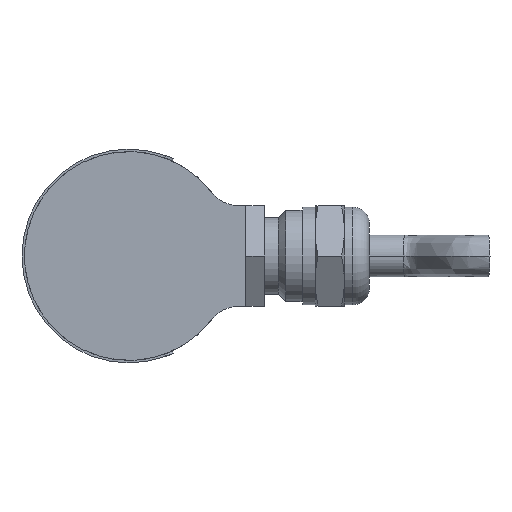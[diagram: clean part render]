
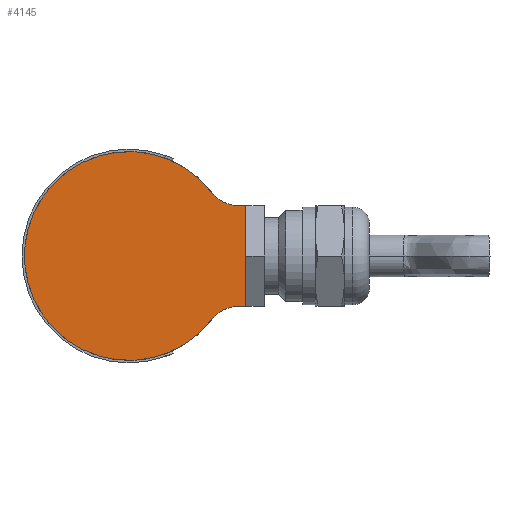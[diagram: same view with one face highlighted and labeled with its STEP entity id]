
A CAD part, left-side view. The second image highlights one B-rep face of the part: STEP entity #4145.
In plain terms, the highlighted planar face has unit normal (-1, 0, 0).
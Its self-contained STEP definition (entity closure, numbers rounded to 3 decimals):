
#18 = LINE ( 'NONE', #4413, #3130 ) ;
#389 = DIRECTION ( 'NONE',  ( 0., 1., 0. ) ) ;
#402 = EDGE_CURVE ( 'NONE', #4246, #4895, #2859, .T. ) ;
#666 = LINE ( 'NONE', #1099, #2024 ) ;
#705 = DIRECTION ( 'NONE',  ( 1., 0., 0. ) ) ;
#719 = CARTESIAN_POINT ( 'NONE',  ( -36.5, 12.501, -6.05 ) ) ;
#754 = CARTESIAN_POINT ( 'NONE',  ( -36.5, -13.086, -10.05 ) ) ;
#770 = EDGE_CURVE ( 'NONE', #2535, #3017, #18, .T. ) ;
#928 = VECTOR ( 'NONE', #2803, 1000. ) ;
#1099 = CARTESIAN_POINT ( 'NONE',  ( -36.5, -14., 6.05 ) ) ;
#1141 = DIRECTION ( 'NONE',  ( 0., 0., 1. ) ) ;
#1144 = FACE_OUTER_BOUND ( 'NONE', #2231, .T. ) ;
#1170 = EDGE_CURVE ( 'NONE', #4895, #3380, #3536, .T. ) ;
#1263 = CARTESIAN_POINT ( 'NONE',  ( -36.5, -9.914, -7.614 ) ) ;
#1291 = ORIENTED_EDGE ( 'NONE', *, *, #402, .T. ) ;
#1572 = PLANE ( 'NONE',  #3845 ) ;
#1693 = ORIENTED_EDGE ( 'NONE', *, *, #1756, .T. ) ;
#1756 = EDGE_CURVE ( 'NONE', #2535, #5092, #4201, .T. ) ;
#1852 = CARTESIAN_POINT ( 'NONE',  ( -36.5, -13.086, 10.05 ) ) ;
#2014 = EDGE_CURVE ( 'NONE', #3380, #3017, #666, .T. ) ;
#2024 = VECTOR ( 'NONE', #1141, 1000. ) ;
#2075 = CARTESIAN_POINT ( 'NONE',  ( -36.5, -14., -6.05 ) ) ;
#2122 = CARTESIAN_POINT ( 'NONE',  ( -36.5, -13.086, 6.05 ) ) ;
#2142 = ORIENTED_EDGE ( 'NONE', *, *, #2014, .T. ) ;
#2146 = CARTESIAN_POINT ( 'NONE',  ( -36.5, -9.914, 7.614 ) ) ;
#2231 = EDGE_LOOP ( 'NONE', ( #5091, #1291, #4709, #2142, #2696, #1693 ) ) ;
#2372 = DIRECTION ( 'NONE',  ( 0., 1., 0. ) ) ;
#2486 = CARTESIAN_POINT ( 'NONE',  ( -36.5, -14., 6.05 ) ) ;
#2535 = VERTEX_POINT ( 'NONE', #2122 ) ;
#2673 = DIRECTION ( 'NONE',  ( 0., -1., 0. ) ) ;
#2696 = ORIENTED_EDGE ( 'NONE', *, *, #770, .F. ) ;
#2707 = AXIS2_PLACEMENT_3D ( 'NONE', #5078, #4436, #2673 ) ;
#2763 = EDGE_CURVE ( 'NONE', #4246, #5092, #4997, .T. ) ;
#2803 = DIRECTION ( 'NONE',  ( 0., -1., 0. ) ) ;
#2859 = CIRCLE ( 'NONE', #3043, 4. ) ;
#3017 = VERTEX_POINT ( 'NONE', #2486 ) ;
#3029 = DIRECTION ( 'NONE',  ( 0., 1., 0. ) ) ;
#3043 = AXIS2_PLACEMENT_3D ( 'NONE', #754, #705, #2372 ) ;
#3120 = CARTESIAN_POINT ( 'NONE',  ( -36.5, -13.086, -6.05 ) ) ;
#3130 = VECTOR ( 'NONE', #5266, 1000. ) ;
#3236 = DIRECTION ( 'NONE',  ( -1., 0., 0. ) ) ;
#3380 = VERTEX_POINT ( 'NONE', #2075 ) ;
#3536 = LINE ( 'NONE', #719, #928 ) ;
#3845 = AXIS2_PLACEMENT_3D ( 'NONE', #4437, #3236, #389 ) ;
#4145 = ADVANCED_FACE ( 'NONE', ( #1144 ), #1572, .T. ) ;
#4201 = CIRCLE ( 'NONE', #4787, 4. ) ;
#4246 = VERTEX_POINT ( 'NONE', #1263 ) ;
#4413 = CARTESIAN_POINT ( 'NONE',  ( -36.5, 12.501, 6.05 ) ) ;
#4436 = DIRECTION ( 'NONE',  ( 1., 0., 0. ) ) ;
#4437 = CARTESIAN_POINT ( 'NONE',  ( -36.5, 0., 0. ) ) ;
#4664 = DIRECTION ( 'NONE',  ( 1., 0., 0. ) ) ;
#4709 = ORIENTED_EDGE ( 'NONE', *, *, #1170, .T. ) ;
#4787 = AXIS2_PLACEMENT_3D ( 'NONE', #1852, #4664, #3029 ) ;
#4895 = VERTEX_POINT ( 'NONE', #3120 ) ;
#4997 = CIRCLE ( 'NONE', #2707, 12.5 ) ;
#5078 = CARTESIAN_POINT ( 'NONE',  ( -36.5, 0., 0. ) ) ;
#5091 = ORIENTED_EDGE ( 'NONE', *, *, #2763, .F. ) ;
#5092 = VERTEX_POINT ( 'NONE', #2146 ) ;
#5266 = DIRECTION ( 'NONE',  ( 0., -1., 0. ) ) ;
